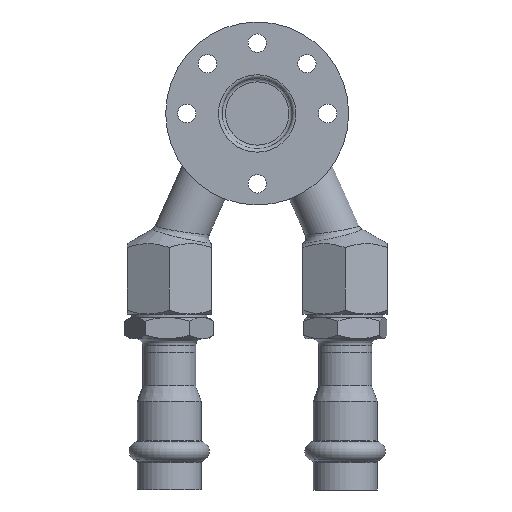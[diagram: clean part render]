
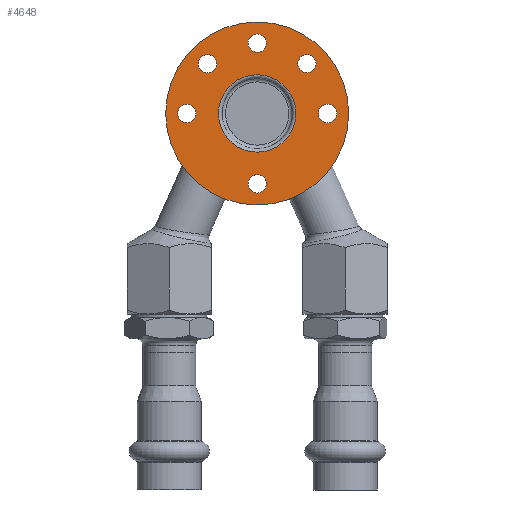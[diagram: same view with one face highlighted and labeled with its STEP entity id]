
A CAD part, front view. The second image highlights one B-rep face of the part: STEP entity #4648.
In plain terms, the highlighted planar face has unit normal (0, -1, 0).
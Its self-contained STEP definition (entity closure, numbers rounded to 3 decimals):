
#4531=CARTESIAN_POINT('',(0.,0.,-11.0));
#4532=VERTEX_POINT('',#4531);
#4533=CARTESIAN_POINT('',(0.,0.,0.0));
#4534=DIRECTION('',(0.0,-1.0,0.0));
#4535=DIRECTION('',(0.0,0.0,1.0));
#4536=AXIS2_PLACEMENT_3D('',#4533,#4534,#4535);
#4537=CIRCLE('',#4536,11.0);
#4538=EDGE_CURVE('',#4532,#4532,#4537,.T.);
#4563=CARTESIAN_POINT('',(13.0,0.0,0.0));
#4564=DIRECTION('',(0.0,-1.0,0.0));
#4565=DIRECTION('',(0.0,0.0,-1.0));
#4566=AXIS2_PLACEMENT_3D('',#4563,#4564,#4565);
#4567=PLANE('',#4566);
#4568=CARTESIAN_POINT('',(26.0,0.0,0.0));
#4569=VERTEX_POINT('',#4568);
#4570=CARTESIAN_POINT('',(0.,0.,0.0));
#4571=DIRECTION('',(0.0,-1.0,0.0));
#4572=DIRECTION('',(1.0,0.0,0.0));
#4573=AXIS2_PLACEMENT_3D('',#4570,#4571,#4572);
#4574=CIRCLE('',#4573,26.0);
#4575=EDGE_CURVE('',#4569,#4569,#4574,.T.);
#4576=ORIENTED_EDGE('',*,*,#4575,.T.);
#4577=EDGE_LOOP('',(#4576));
#4578=FACE_OUTER_BOUND('',#4577,.T.);
#4579=CARTESIAN_POINT('',(-11.542,0.,14.142));
#4580=VERTEX_POINT('',#4579);
#4581=CARTESIAN_POINT('',(-14.142,0.,14.142));
#4582=DIRECTION('',(0.0,1.0,0.0));
#4583=DIRECTION('',(1.0,0.0,0.0));
#4584=AXIS2_PLACEMENT_3D('',#4581,#4582,#4583);
#4585=CIRCLE('',#4584,2.6);
#4586=EDGE_CURVE('',#4580,#4580,#4585,.T.);
#4587=ORIENTED_EDGE('',*,*,#4586,.T.);
#4588=EDGE_LOOP('',(#4587));
#4589=FACE_BOUND('',#4588,.T.);
#4590=CARTESIAN_POINT('',(2.6,0.,20.0));
#4591=VERTEX_POINT('',#4590);
#4592=CARTESIAN_POINT('',(0.,0.,20.0));
#4593=DIRECTION('',(0.0,1.0,0.0));
#4594=DIRECTION('',(1.0,0.0,0.0));
#4595=AXIS2_PLACEMENT_3D('',#4592,#4593,#4594);
#4596=CIRCLE('',#4595,2.6);
#4597=EDGE_CURVE('',#4591,#4591,#4596,.T.);
#4598=ORIENTED_EDGE('',*,*,#4597,.T.);
#4599=EDGE_LOOP('',(#4598));
#4600=FACE_BOUND('',#4599,.T.);
#4601=CARTESIAN_POINT('',(16.742,0.,14.142));
#4602=VERTEX_POINT('',#4601);
#4603=CARTESIAN_POINT('',(14.142,0.0,14.142));
#4604=DIRECTION('',(0.0,1.0,0.0));
#4605=DIRECTION('',(1.0,0.0,0.0));
#4606=AXIS2_PLACEMENT_3D('',#4603,#4604,#4605);
#4607=CIRCLE('',#4606,2.6);
#4608=EDGE_CURVE('',#4602,#4602,#4607,.T.);
#4609=ORIENTED_EDGE('',*,*,#4608,.T.);
#4610=EDGE_LOOP('',(#4609));
#4611=FACE_BOUND('',#4610,.T.);
#4612=CARTESIAN_POINT('',(2.6,0.,-20.0));
#4613=VERTEX_POINT('',#4612);
#4614=CARTESIAN_POINT('',(0.,0.,-20.0));
#4615=DIRECTION('',(0.0,1.0,0.0));
#4616=DIRECTION('',(1.0,0.0,0.0));
#4617=AXIS2_PLACEMENT_3D('',#4614,#4615,#4616);
#4618=CIRCLE('',#4617,2.6);
#4619=EDGE_CURVE('',#4613,#4613,#4618,.T.);
#4620=ORIENTED_EDGE('',*,*,#4619,.T.);
#4621=EDGE_LOOP('',(#4620));
#4622=FACE_BOUND('',#4621,.T.);
#4623=CARTESIAN_POINT('',(-17.4,0.,0.0));
#4624=VERTEX_POINT('',#4623);
#4625=CARTESIAN_POINT('',(-20.0,0.,0.0));
#4626=DIRECTION('',(0.0,1.0,0.0));
#4627=DIRECTION('',(1.0,0.0,0.0));
#4628=AXIS2_PLACEMENT_3D('',#4625,#4626,#4627);
#4629=CIRCLE('',#4628,2.6);
#4630=EDGE_CURVE('',#4624,#4624,#4629,.T.);
#4631=ORIENTED_EDGE('',*,*,#4630,.T.);
#4632=EDGE_LOOP('',(#4631));
#4633=FACE_BOUND('',#4632,.T.);
#4634=CARTESIAN_POINT('',(22.6,0.,0.));
#4635=VERTEX_POINT('',#4634);
#4636=CARTESIAN_POINT('',(20.0,0.0,0.));
#4637=DIRECTION('',(0.0,1.0,0.0));
#4638=DIRECTION('',(1.0,0.0,0.0));
#4639=AXIS2_PLACEMENT_3D('',#4636,#4637,#4638);
#4640=CIRCLE('',#4639,2.6);
#4641=EDGE_CURVE('',#4635,#4635,#4640,.T.);
#4642=ORIENTED_EDGE('',*,*,#4641,.T.);
#4643=EDGE_LOOP('',(#4642));
#4644=FACE_BOUND('',#4643,.T.);
#4645=ORIENTED_EDGE('',*,*,#4538,.F.);
#4646=EDGE_LOOP('',(#4645));
#4647=FACE_BOUND('',#4646,.T.);
#4648=ADVANCED_FACE('',(#4578,#4589,#4600,#4611,#4622,#4633,#4644,#4647),#4567,.T.);
